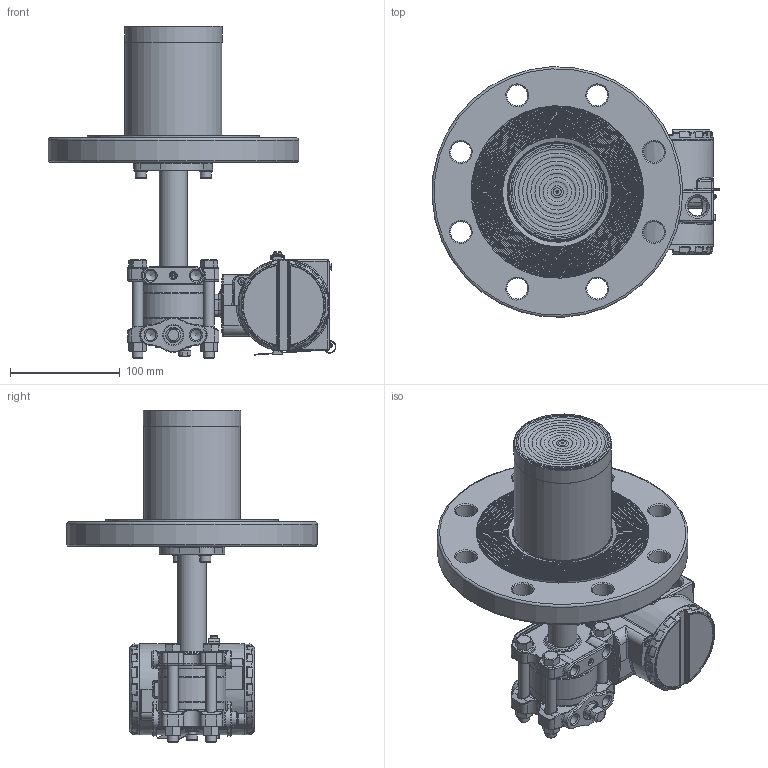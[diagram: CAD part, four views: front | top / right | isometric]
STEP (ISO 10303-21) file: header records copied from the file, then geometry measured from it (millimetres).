
FILE_DESCRIPTION(/* description */ (''),/* implementation_level */ '2;1');
FILE_NAME(/* name */ 'F:\Area\Desenvolvimento_2\Projects\Sensor\projetos\LD30X\montagens 3d - clientes\SELO NIVEL\LD30XL 4-150 RF ext 100 ref 1-4NPT purga acima.stp',/* time_stamp */ '2023-02-15T08:08:58-03:00',/* author */ ('inventor02'),/* organization */ (''),/* preprocessor_version */ 'ST-DEVELOPER v17',/* originating_system */ 'Autodesk Inventor 2019',/* authorisation */ '');
FILE_SCHEMA (('CONFIG_CONTROL_DESIGN'));
Products named in the file (41): LD30XL 4-150 RF ext 100 ref 1-4NPT purga acima; 204-0301-L-4 150 RF ext 100 purga acima; nivel fx3 com baixa diferencial 1-4NPT purga acima; involucro fx0-3 apos a usinagem final; flange diferencial std purga; 101-C-7484-01 flange selo nivel VR; 201-A-0504-tubo união teste 1; bujao 1-4NPT; Sangria; Porca 3-8 x 16 UNC; Paraf. 3-8 x 16 UNC; adaptação tubo x flanges 1-1-2 a 4pol; 101-B-0161-anel cortado do tubo - teste1; 101-B-0162-flange fixação tubo; ANSI B18.3.1M - M6x1 x 16; DIN 127 - A 6; flange 4 150 ext 100; 096-B-0212-15; 101-B-7702-02 ext 4-100; 101-C-0114-11; carcaça vazia com tampas e plaqueta; carcaça LD inox sem letras; Subconjunto plaqueta 300; Plaqueta transmissor; Parafuso da Plaqueta; Rebite da Plaqueta; 096-A-0169-03; 101-A-0502-01; Chapa aterramento externo; ISO 1207 - M4 x 8; DIN 915 - M6 x 10; ANSI B18.3.1M - M4x0,7 x 8; Subconjunto tampa com visor aluminio; tampa pintada; VIDRO DO VISOR; oring 41x1 vidro tampa; Trava do vidro da tampa com visor; trava do vidro VH256; Subconjunto tampa sem visor-aluminio; tampa cega 300 pintada p0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
Assembly tree (51 placements, depth 4):
  LD30XL 4-150 RF ext 100 ref 1-4NPT purga acima
    204-0301-L-4 150 RF ext 100 purga acima
      nivel fx3 com baixa diferencial 1-4NPT purga acima
        involucro fx0-3 apos a usinagem final
        flange diferencial std purga
        101-C-7484-01 flange selo nivel VR
        201-A-0504-tubo união teste 1
        DIN 915 - M6 x 10
        bujao 1-4NPT
        Sangria
        Porca 3-8 x 16 UNC  x4
        Paraf. 3-8 x 16 UNC  x4
      adaptação tubo x flanges 1-1-2 a 4pol
        101-B-0161-anel cortado do tubo - teste1
        101-B-0162-flange fixação tubo
        ANSI B18.3.1M - M6x1 x 16  x2
        DIN 127 - A 6  x2
      flange 4 150 ext 100
        096-B-0212-15
        101-B-7702-02 ext 4-100
        101-C-0114-11
    carcaça vazia com tampas e plaqueta
      carcaça LD inox sem letras
      Subconjunto plaqueta 300
        Plaqueta transmissor
        Parafuso da Plaqueta
        Rebite da Plaqueta
        096-A-0169-03
        101-A-0502-01
      Chapa aterramento externo
      ISO 1207 - M4 x 8
      DIN 915 - M6 x 10
      ANSI B18.3.1M - M4x0,7 x 8  x2
      Subconjunto tampa com visor aluminio
        tampa pintada
        VIDRO DO VISOR
        oring 41x1 vidro tampa
        Trava do vidro da tampa com visor
        trava do vidro VH256
        00034775-0
      Subconjunto tampa sem visor-aluminio
        tampa cega 300 pintada p0
        00034775-0
Bounding box: 262.47 x 228.38 x 302.6 mm (x, y, z)
Volume: 1705197.6 mm3; surface area: 425520 mm2
Topology: 43 solids, 43 shells, 2799 faces, 6670 edges, 3957 vertices
Faces by surface type: bspline 666, cylinder 660, plane 590, torus 501, cone 256, sphere 126
Full cylindrical faces by diameter (mm): 2 x4, 2.1 x2, 2.459 x5, 2.5 x1, 2.642 x1, 2.7 x1, 2.8 x1, 3 x4, 3.242 x4, 3.5 x5, 3.571 x1, 4 x5, 4.3 x1, 4.4 x1, 4.917 x4, 5 x1, 5.5 x3, 6 x6, 6.647 x1, 7 x7, 7.087 x2, 7.6 x2, 7.798 x4, 8 x1, 8.7 x2, 9.525 x4, 9.728 x6, 10 x2, 10.5 x8, 10.719 x2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
Entity records: 96163 total; most frequent: CARTESIAN_POINT 34875, DIRECTION 12705, ORIENTED_EDGE 12520, EDGE_CURVE 6260, AXIS2_PLACEMENT_3D 5625, VERTEX_POINT 3763, CIRCLE 3336, EDGE_LOOP 2877
